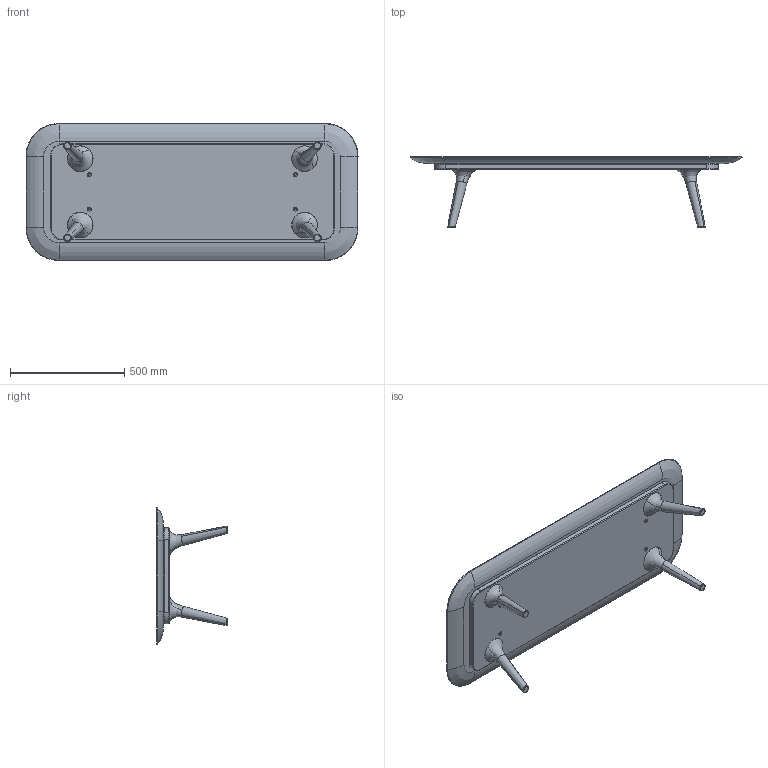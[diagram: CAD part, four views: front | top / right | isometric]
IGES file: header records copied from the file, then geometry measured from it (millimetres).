
Start section: SolidWorks IGES file using analytic representation for surfaces
Global section: file name: P:\Corporate Identity\4_Product_Content\2d3ddag_2014\Zio Coffee Table\3D\Zio_coffeetable_145x60.IGS; native system: SolidWorks 2014; preprocessor: SolidWorks 2014; author: iris; date: 140902.141801; units: millimetre
Bounding box: 1450.46 x 309 x 598.44 mm (x, y, z)
Volume: 37911589.5 mm3; surface area: 3076968.6 mm2
Topology: 6 solids, 6 shells, 189 faces, 425 edges, 258 vertices
Faces by surface type: revolution 121, plane 40, bspline 28
